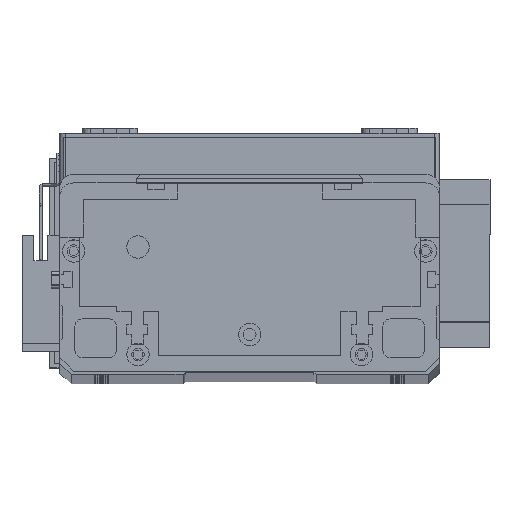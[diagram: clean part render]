
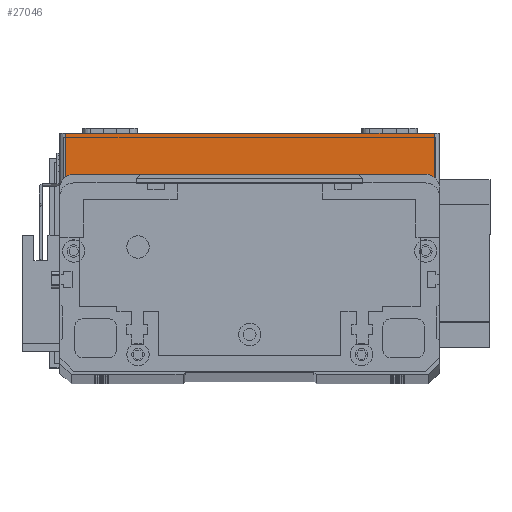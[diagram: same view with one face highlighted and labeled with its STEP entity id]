
A CAD part, top view. The second image highlights one B-rep face of the part: STEP entity #27046.
In plain terms, the highlighted planar face has unit normal (0, 0, 1) as drawn and (0, -1, 0) by its records, which use the part's own axes.
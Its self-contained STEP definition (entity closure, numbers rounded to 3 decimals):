
#1437 = VECTOR ( 'NONE', #2013, 1000. ) ;
#1636 = DIRECTION ( 'NONE',  ( 0., 0., 1. ) ) ;
#2013 = DIRECTION ( 'NONE',  ( 1., 0., 0. ) ) ;
#3060 = VERTEX_POINT ( 'NONE', #14929 ) ;
#3123 = ORIENTED_EDGE ( 'NONE', *, *, #4455, .T. ) ;
#3596 = AXIS2_PLACEMENT_3D ( 'NONE', #29280, #15464, #1636 ) ;
#4304 = LINE ( 'NONE', #29661, #15127 ) ;
#4337 = CARTESIAN_POINT ( 'NONE',  ( 134., 0., 19.5 ) ) ;
#4455 = EDGE_CURVE ( 'NONE', #16275, #3060, #4304, .T. ) ;
#5078 = ORIENTED_EDGE ( 'NONE', *, *, #17897, .T. ) ;
#6020 = CARTESIAN_POINT ( 'NONE',  ( 134., 0., 0. ) ) ;
#6866 = VECTOR ( 'NONE', #25217, 1000. ) ;
#7034 = ORIENTED_EDGE ( 'NONE', *, *, #18371, .F. ) ;
#7589 = LINE ( 'NONE', #20417, #1437 ) ;
#10529 = VERTEX_POINT ( 'NONE', #21926 ) ;
#12882 = CARTESIAN_POINT ( 'NONE',  ( 0., 0., 19.5 ) ) ;
#12987 = LINE ( 'NONE', #4337, #6866 ) ;
#14929 = CARTESIAN_POINT ( 'NONE',  ( 2., 0., 0. ) ) ;
#15127 = VECTOR ( 'NONE', #27335, 1000. ) ;
#15464 = DIRECTION ( 'NONE',  ( 0., 1., 0. ) ) ;
#15884 = LINE ( 'NONE', #12882, #20610 ) ;
#16275 = VERTEX_POINT ( 'NONE', #17655 ) ;
#16864 = FACE_OUTER_BOUND ( 'NONE', #17459, .T. ) ;
#17459 = EDGE_LOOP ( 'NONE', ( #7034, #3123, #26403, #5078 ) ) ;
#17655 = CARTESIAN_POINT ( 'NONE',  ( 2., 0., 19.5 ) ) ;
#17892 = EDGE_CURVE ( 'NONE', #3060, #29402, #7589, .T. ) ;
#17897 = EDGE_CURVE ( 'NONE', #29402, #10529, #12987, .T. ) ;
#18371 = EDGE_CURVE ( 'NONE', #16275, #10529, #15884, .T. ) ;
#20059 = PLANE ( 'NONE',  #3596 ) ;
#20417 = CARTESIAN_POINT ( 'NONE',  ( 0., 0., 0. ) ) ;
#20610 = VECTOR ( 'NONE', #29108, 1000. ) ;
#21926 = CARTESIAN_POINT ( 'NONE',  ( 134., 0., 19.5 ) ) ;
#25217 = DIRECTION ( 'NONE',  ( 0., 0., 1. ) ) ;
#26403 = ORIENTED_EDGE ( 'NONE', *, *, #17892, .T. ) ;
#27046 = ADVANCED_FACE ( 'NONE', ( #16864 ), #20059, .F. ) ;
#27335 = DIRECTION ( 'NONE',  ( 0., 0., -1. ) ) ;
#29108 = DIRECTION ( 'NONE',  ( 1., 0., 0. ) ) ;
#29280 = CARTESIAN_POINT ( 'NONE',  ( 0., 0., 19.5 ) ) ;
#29402 = VERTEX_POINT ( 'NONE', #6020 ) ;
#29661 = CARTESIAN_POINT ( 'NONE',  ( 2., 0., 19.5 ) ) ;
